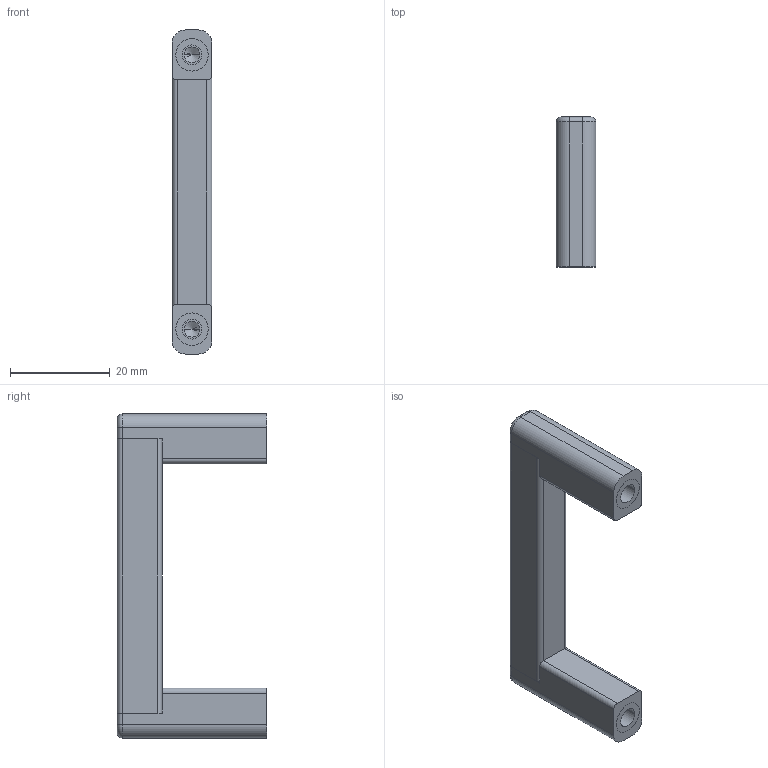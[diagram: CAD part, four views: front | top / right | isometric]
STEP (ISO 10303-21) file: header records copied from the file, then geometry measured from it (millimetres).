
FILE_DESCRIPTION (( 'STEP AP203' ), '1' );
FILE_NAME ('79350.W0055-1.step', '2018-04-28T14:52:34', ( '' ), ( '' ), 'SwSTEP 2.0', 'SolidWorks 2017', '' );
FILE_SCHEMA (( 'CONFIG_CONTROL_DESIGN' ));
Length unit declared in the file: millimetre
Products named in the file (3): Part1; 79350.W0055-1; Part3_79350.W0055-1
Assembly tree (3 placements, depth 2):
  79350.W0055-1
    Part3_79350.W0055-1
    Part1  x2
Bounding box: 8 x 30 x 65 mm (x, y, z)
Volume: 7244.4 mm3; surface area: 6367.3 mm2
Topology: 5 solids, 5 shells, 110 faces, 266 edges, 162 vertices
Faces by surface type: cylinder 46, plane 40, cone 12, torus 12
Entity records: 2190 total; most frequent: DIRECTION 355, CARTESIAN_POINT 318, ORIENTED_EDGE 302, EDGE_CURVE 151, AXIS2_PLACEMENT_3D 134, VERTEX_POINT 97, LINE 87, VECTOR 87
